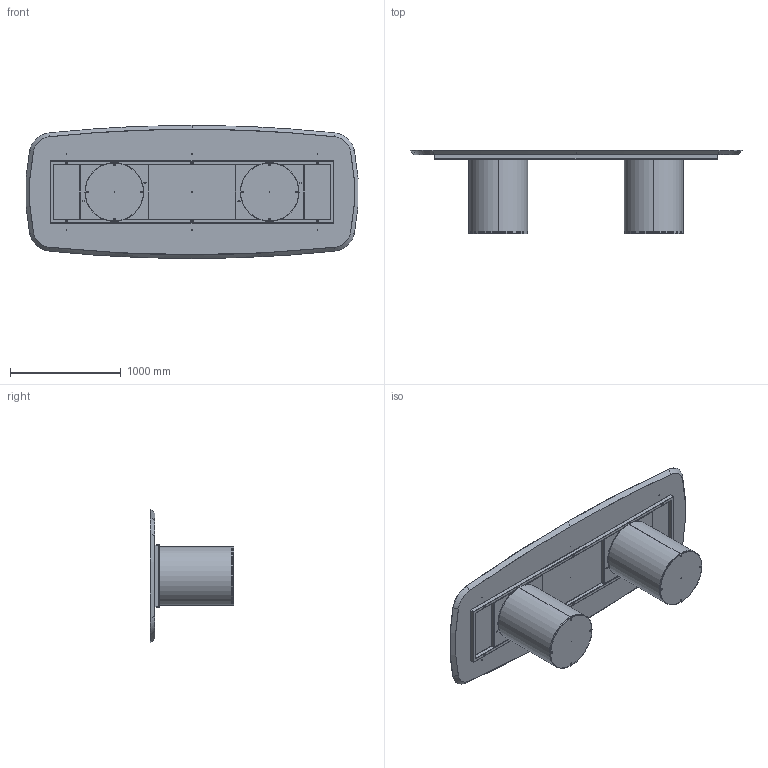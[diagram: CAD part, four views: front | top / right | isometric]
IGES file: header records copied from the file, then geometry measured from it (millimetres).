
Start section: SolidWorks IGES file using analytic representation for surfaces
Global section: file name: Y:\eforma\TECNICO\SOLIDWORKS\E-FORMA\1-TAVOLI\CILINDRO\02 parts\CI44W.IGS; native system: SolidWorks 2022; preprocessor: SolidWorks 2022; author: eforma.tech; date: 240808.091250; units: millimetre
Bounding box: 2991.72 x 748 x 1200 mm (x, y, z)
Volume: 137503295.2 mm3; surface area: 15923476.2 mm2
Topology: 34 solids, 34 shells, 1255 faces, 2886 edges, 1632 vertices
Faces by surface type: revolution 749, plane 506
